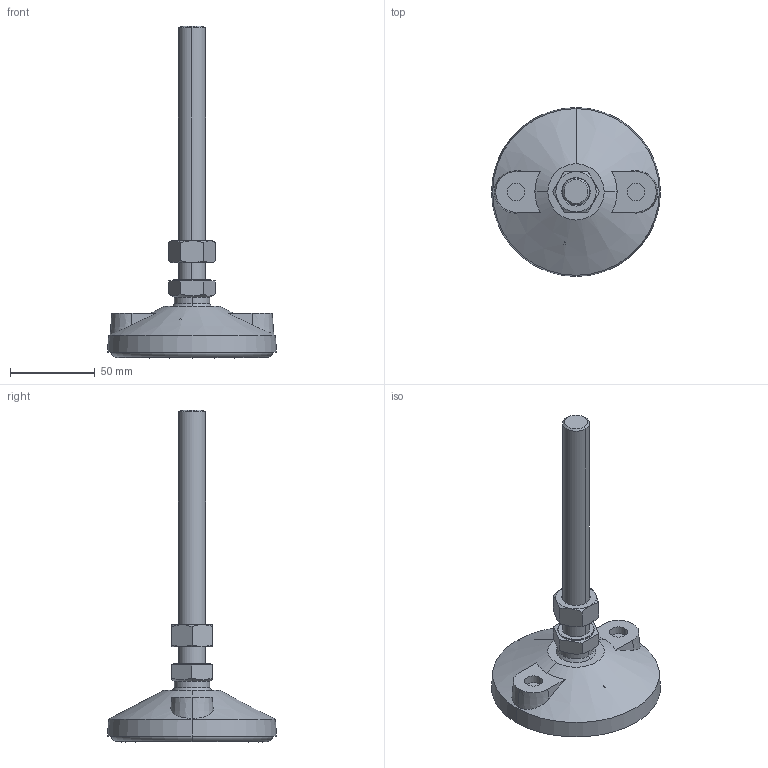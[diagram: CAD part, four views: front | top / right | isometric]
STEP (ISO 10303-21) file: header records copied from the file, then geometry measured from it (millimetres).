
FILE_DESCRIPTION (( 'STEP AP203' ), '1' );
FILE_NAME ('DY-U10016150.STEP', '2022-03-09T03:06:23', ( '' ), ( '' ), 'SwSTEP 2.0', 'SolidWorks 2017', '' );
FILE_SCHEMA (( 'CONFIG_CONTROL_DESIGN' ));
Length unit declared in the file: millimetre
Products named in the file (1): DY-U10016150
Bounding box: 100 x 100 x 196.41 mm (x, y, z)
Volume: 207435.2 mm3; surface area: 54540.5 mm2
Topology: 5 solids, 5 shells, 224 faces, 507 edges, 310 vertices
Faces by surface type: cone 61, plane 61, cylinder 50, bspline 50, torus 2
Entity records: 8462 total; most frequent: CARTESIAN_POINT 3826, ORIENTED_EDGE 1000, DIRECTION 881, EDGE_CURVE 500, AXIS2_PLACEMENT_3D 363, VERTEX_POINT 310, EDGE_LOOP 254, ADVANCED_FACE 224
